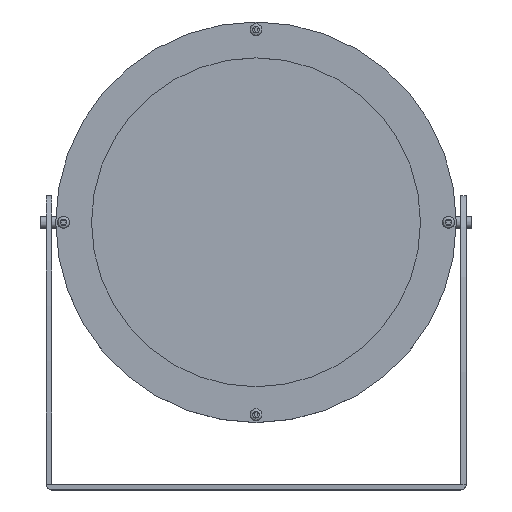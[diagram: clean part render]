
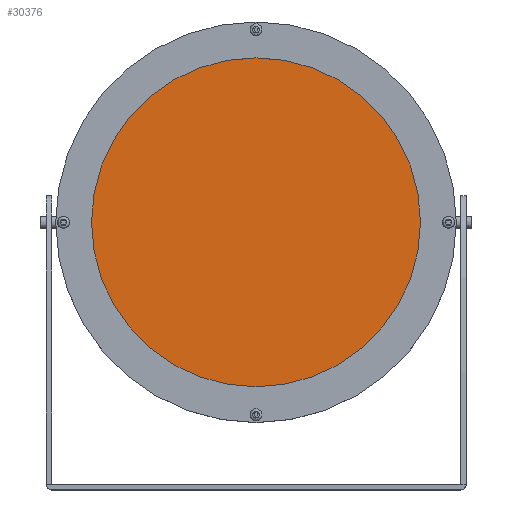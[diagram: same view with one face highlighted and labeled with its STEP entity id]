
A CAD part, top view. The second image highlights one B-rep face of the part: STEP entity #30376.
In plain terms, the highlighted planar face has unit normal (0, 0, 1).
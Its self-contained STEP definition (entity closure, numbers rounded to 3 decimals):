
#2585=PLANE('',#32285);
#3463=FACE_OUTER_BOUND('',#5337,.T.);
#5337=EDGE_LOOP('',(#20383));
#10976=CIRCLE('',#32283,68.75);
#12390=VERTEX_POINT('',#44226);
#15485=EDGE_CURVE('',#12390,#12390,#10976,.T.);
#20383=ORIENTED_EDGE('',*,*,#15485,.T.);
#30376=ADVANCED_FACE('',(#3463),#2585,.T.);
#32283=AXIS2_PLACEMENT_3D('',#44227,#35660,#35661);
#32285=AXIS2_PLACEMENT_3D('',#44231,#35665,#35666);
#35660=DIRECTION('center_axis',(0.,0.,1.));
#35661=DIRECTION('ref_axis',(1.,0.,0.));
#35665=DIRECTION('center_axis',(0.,0.,1.));
#35666=DIRECTION('ref_axis',(1.,0.,0.));
#44226=CARTESIAN_POINT('',(297.876,0.,0.));
#44227=CARTESIAN_POINT('Origin',(366.626,0.,0.));
#44231=CARTESIAN_POINT('Origin',(366.626,0.,0.));
